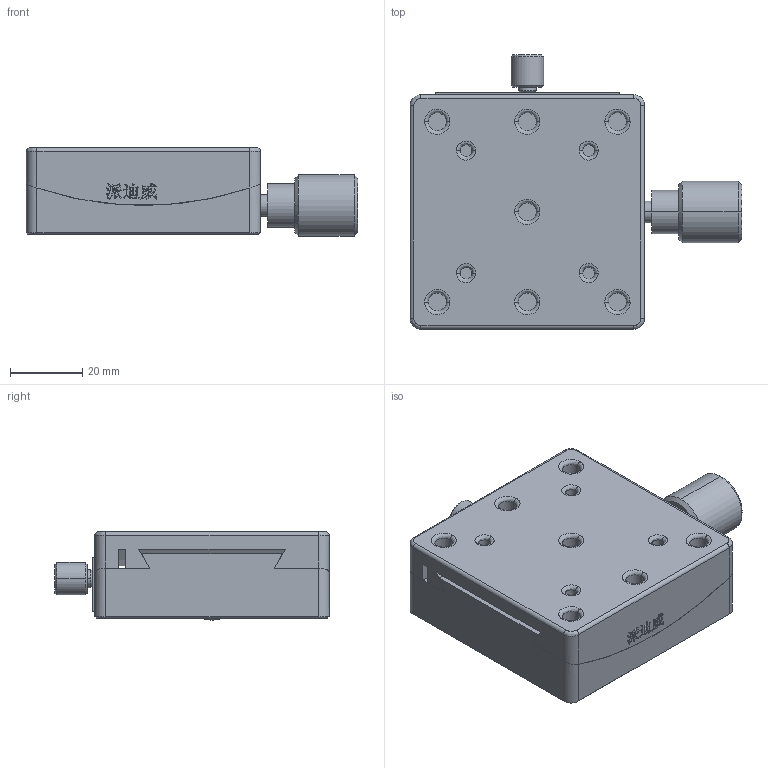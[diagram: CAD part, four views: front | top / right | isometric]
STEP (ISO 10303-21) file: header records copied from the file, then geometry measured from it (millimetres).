
FILE_DESCRIPTION (( 'STEP AP214' ), '1' );
FILE_NAME ('PT-SD300.STEP', '2022-09-04T00:52:54', ( '' ), ( '' ), 'SwSTEP 2.0', 'SolidWorks 2017', '' );
FILE_SCHEMA (( 'AUTOMOTIVE_DESIGN' ));
Length unit declared in the file: millimetre
Products named in the file (5): （300）SJ130-10-100锁紧片; （300）SJ130-10-100台面; PT-SD300; （300）SJ130-10-100底座; （300）SJ130-10-76锁紧手轮
Assembly tree (4 placements, depth 2):
  PT-SD300
    （300）SJ130-10-100底座
    （300）SJ130-10-100台面
    （300）SJ130-10-76锁紧手轮
    （300）SJ130-10-100锁紧片
Bounding box: 92 x 76.1 x 24.5 mm (x, y, z)
Volume: 98323.5 mm3; surface area: 32049.2 mm2
Topology: 4 solids, 4 shells, 549 faces, 1408 edges, 926 vertices
Faces by surface type: plane 261, bspline 182, cylinder 92, cone 14
Entity records: 23750 total; most frequent: CARTESIAN_POINT 11314, ORIENTED_EDGE 2816, DIRECTION 1996, EDGE_CURVE 1408, VERTEX_POINT 926, VECTOR 856, LINE 856, EDGE_LOOP 614
